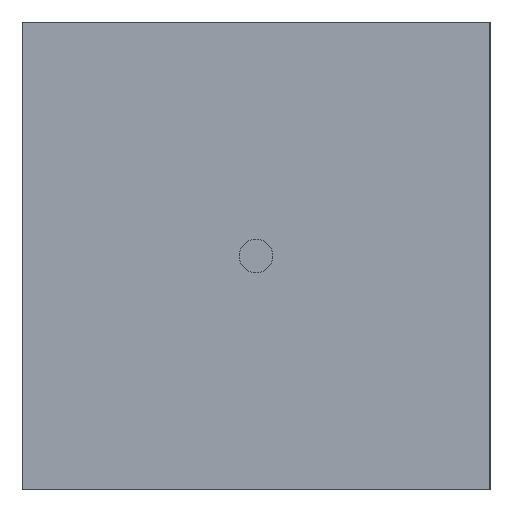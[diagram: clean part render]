
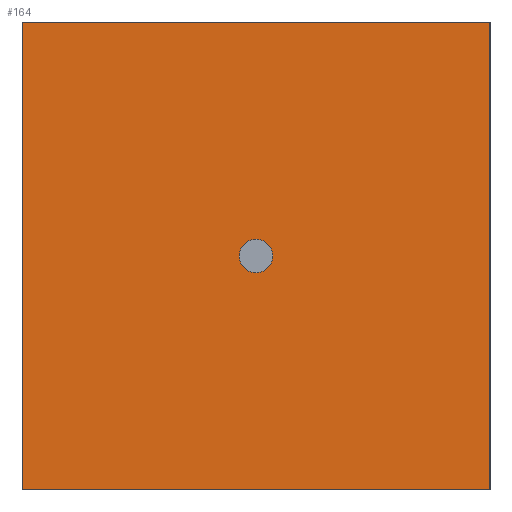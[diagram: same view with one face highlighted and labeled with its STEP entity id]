
A CAD part, left-side view. The second image highlights one B-rep face of the part: STEP entity #164.
In plain terms, the highlighted planar face has unit normal (-1, 0, 0).
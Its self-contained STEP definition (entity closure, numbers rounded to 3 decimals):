
#29=FACE_OUTER_BOUND('',#41,.T.);
#41=EDGE_LOOP('',(#122,#123,#124,#125));
#50=LINE('',#241,#62);
#54=LINE('',#249,#66);
#57=LINE('',#255,#69);
#60=LINE('',#260,#72);
#62=VECTOR('',#195,12.7);
#66=VECTOR('',#201,12.7);
#69=VECTOR('',#206,12.7);
#72=VECTOR('',#211,12.7);
#74=VERTEX_POINT('',#239);
#75=VERTEX_POINT('',#240);
#78=VERTEX_POINT('',#248);
#80=VERTEX_POINT('',#254);
#86=EDGE_CURVE('',#74,#75,#50,.T.);
#90=EDGE_CURVE('',#78,#74,#54,.T.);
#93=EDGE_CURVE('',#80,#78,#57,.T.);
#96=EDGE_CURVE('',#75,#80,#60,.T.);
#122=ORIENTED_EDGE('',*,*,#96,.F.);
#123=ORIENTED_EDGE('',*,*,#86,.F.);
#124=ORIENTED_EDGE('',*,*,#90,.F.);
#125=ORIENTED_EDGE('',*,*,#93,.F.);
#139=PLANE('',#180);
#164=ADVANCED_FACE('',(#29),#139,.F.);
#180=AXIS2_PLACEMENT_3D('',#263,#215,#216);
#195=DIRECTION('',(0.,0.,-1.));
#201=DIRECTION('',(0.,-1.,0.));
#206=DIRECTION('',(0.,0.,1.));
#211=DIRECTION('',(0.,1.,0.));
#215=DIRECTION('center_axis',(1.,0.,0.));
#216=DIRECTION('ref_axis',(0.,0.,-1.));
#239=CARTESIAN_POINT('',(0.,0.,12.7));
#240=CARTESIAN_POINT('',(0.,0.,0.));
#241=CARTESIAN_POINT('',(0.,0.,12.7));
#248=CARTESIAN_POINT('',(0.,12.7,12.7));
#249=CARTESIAN_POINT('',(0.,12.7,12.7));
#254=CARTESIAN_POINT('',(0.,12.7,0.));
#255=CARTESIAN_POINT('',(0.,12.7,0.));
#260=CARTESIAN_POINT('',(0.,0.,0.));
#263=CARTESIAN_POINT('Origin',(0.,6.35,6.35));
